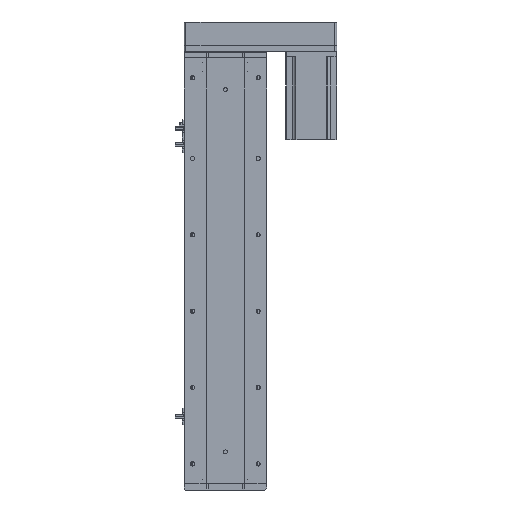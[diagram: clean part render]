
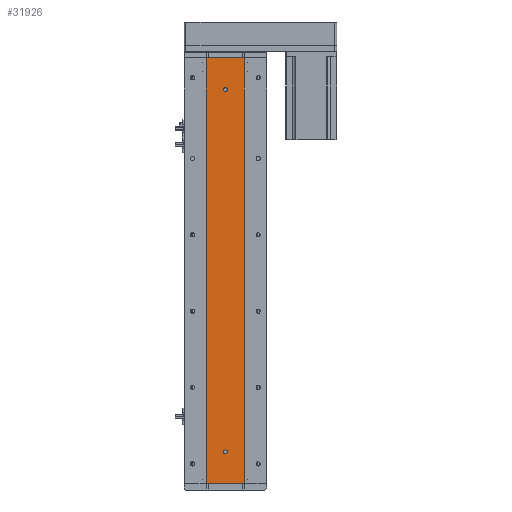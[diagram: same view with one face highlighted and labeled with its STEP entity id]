
A CAD part, left-side view. The second image highlights one B-rep face of the part: STEP entity #31926.
In plain terms, the highlighted planar face has unit normal (-1, 0, 0).
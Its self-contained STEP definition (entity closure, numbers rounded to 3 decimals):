
#119 = ORIENTED_EDGE ( 'NONE', *, *, #11274, .T. ) ;
#216 = VECTOR ( 'NONE', #38083, 1000. ) ;
#544 = CARTESIAN_POINT ( 'NONE',  ( -24.994, 29.785, 669. ) ) ;
#1213 = VERTEX_POINT ( 'NONE', #8617 ) ;
#1233 = ORIENTED_EDGE ( 'NONE', *, *, #10105, .F. ) ;
#1316 = EDGE_CURVE ( 'NONE', #16197, #15283, #22123, .T. ) ;
#1775 = AXIS2_PLACEMENT_3D ( 'NONE', #11521, #34320, #14771 ) ;
#1829 = FACE_BOUND ( 'NONE', #38116, .T. ) ;
#2536 = EDGE_CURVE ( 'NONE', #33349, #35750, #32359, .T. ) ;
#4564 = PLANE ( 'NONE',  #13389 ) ;
#5562 = CARTESIAN_POINT ( 'NONE',  ( -24.994, -29.785, 0. ) ) ;
#7866 = DIRECTION ( 'NONE',  ( 0., 0., -1. ) ) ;
#8200 = AXIS2_PLACEMENT_3D ( 'NONE', #8415, #31287, #11744 ) ;
#8415 = CARTESIAN_POINT ( 'NONE',  ( -24.994, 0., 50. ) ) ;
#8617 = CARTESIAN_POINT ( 'NONE',  ( -24.994, 29.785, 0. ) ) ;
#9008 = ORIENTED_EDGE ( 'NONE', *, *, #13947, .T. ) ;
#9304 = ORIENTED_EDGE ( 'NONE', *, *, #1316, .F. ) ;
#10105 = EDGE_CURVE ( 'NONE', #35786, #14856, #24343, .T. ) ;
#11274 = EDGE_CURVE ( 'NONE', #32246, #1213, #19646, .T. ) ;
#11521 = CARTESIAN_POINT ( 'NONE',  ( -24.994, 0., 619. ) ) ;
#11744 = DIRECTION ( 'NONE',  ( 0., 0., 1. ) ) ;
#11878 = CARTESIAN_POINT ( 'NONE',  ( -24.994, 29.785, 0. ) ) ;
#12791 = DIRECTION ( 'NONE',  ( -1., 0., 0. ) ) ;
#12896 = CIRCLE ( 'NONE', #8200, 3. ) ;
#13240 = CARTESIAN_POINT ( 'NONE',  ( -24.994, 0., 619. ) ) ;
#13389 = AXIS2_PLACEMENT_3D ( 'NONE', #17684, #40485, #20963 ) ;
#13947 = EDGE_CURVE ( 'NONE', #1213, #14856, #22331, .T. ) ;
#14771 = DIRECTION ( 'NONE',  ( 0., 0., 1. ) ) ;
#14856 = VERTEX_POINT ( 'NONE', #5562 ) ;
#15283 = VERTEX_POINT ( 'NONE', #18920 ) ;
#15428 = CARTESIAN_POINT ( 'NONE',  ( -24.994, 29.785, 669. ) ) ;
#16197 = VERTEX_POINT ( 'NONE', #30738 ) ;
#16356 = CIRCLE ( 'NONE', #1775, 3. ) ;
#16483 = DIRECTION ( 'NONE',  ( 0., 0., 1. ) ) ;
#16560 = CARTESIAN_POINT ( 'NONE',  ( -24.994, 29.785, 669. ) ) ;
#17684 = CARTESIAN_POINT ( 'NONE',  ( -24.994, 29.785, 669. ) ) ;
#17716 = CARTESIAN_POINT ( 'NONE',  ( -24.994, -29.785, 669. ) ) ;
#18401 = DIRECTION ( 'NONE',  ( 0., -1., 0. ) ) ;
#18920 = CARTESIAN_POINT ( 'NONE',  ( -24.994, 0., 53. ) ) ;
#19646 = LINE ( 'NONE', #16560, #36004 ) ;
#19810 = DIRECTION ( 'NONE',  ( 0., 0., -1. ) ) ;
#20070 = LINE ( 'NONE', #15428, #216 ) ;
#20214 = FACE_BOUND ( 'NONE', #28524, .T. ) ;
#20254 = AXIS2_PLACEMENT_3D ( 'NONE', #32322, #12791, #35575 ) ;
#20802 = EDGE_CURVE ( 'NONE', #32246, #35786, #20070, .T. ) ;
#20856 = CARTESIAN_POINT ( 'NONE',  ( -24.994, 0., 622. ) ) ;
#20963 = DIRECTION ( 'NONE',  ( 0., 0., -1. ) ) ;
#21173 = ORIENTED_EDGE ( 'NONE', *, *, #25334, .F. ) ;
#22123 = CIRCLE ( 'NONE', #20254, 3. ) ;
#22331 = LINE ( 'NONE', #11878, #38674 ) ;
#22578 = ORIENTED_EDGE ( 'NONE', *, *, #20802, .F. ) ;
#23317 = VECTOR ( 'NONE', #7866, 1000. ) ;
#24343 = LINE ( 'NONE', #17716, #23317 ) ;
#25334 = EDGE_CURVE ( 'NONE', #15283, #16197, #12896, .T. ) ;
#27783 = CARTESIAN_POINT ( 'NONE',  ( -24.994, 0., 616. ) ) ;
#28524 = EDGE_LOOP ( 'NONE', ( #34217, #37796 ) ) ;
#30189 = EDGE_LOOP ( 'NONE', ( #9008, #1233, #22578, #119 ) ) ;
#30738 = CARTESIAN_POINT ( 'NONE',  ( -24.994, 0., 47. ) ) ;
#31247 = CARTESIAN_POINT ( 'NONE',  ( -24.994, -29.785, 669. ) ) ;
#31287 = DIRECTION ( 'NONE',  ( -1., 0., 0. ) ) ;
#31926 = ADVANCED_FACE ( 'NONE', ( #20214, #1829, #35530 ), #4564, .F. ) ;
#32246 = VERTEX_POINT ( 'NONE', #544 ) ;
#32322 = CARTESIAN_POINT ( 'NONE',  ( -24.994, 0., 50. ) ) ;
#32359 = CIRCLE ( 'NONE', #39441, 3. ) ;
#33349 = VERTEX_POINT ( 'NONE', #20856 ) ;
#34217 = ORIENTED_EDGE ( 'NONE', *, *, #2536, .F. ) ;
#34320 = DIRECTION ( 'NONE',  ( -1., 0., 0. ) ) ;
#35530 = FACE_OUTER_BOUND ( 'NONE', #30189, .T. ) ;
#35575 = DIRECTION ( 'NONE',  ( 0., 0., 1. ) ) ;
#35750 = VERTEX_POINT ( 'NONE', #27783 ) ;
#35786 = VERTEX_POINT ( 'NONE', #31247 ) ;
#36004 = VECTOR ( 'NONE', #19810, 1000. ) ;
#36010 = DIRECTION ( 'NONE',  ( -1., 0., 0. ) ) ;
#36298 = EDGE_CURVE ( 'NONE', #35750, #33349, #16356, .T. ) ;
#37796 = ORIENTED_EDGE ( 'NONE', *, *, #36298, .F. ) ;
#38083 = DIRECTION ( 'NONE',  ( 0., -1., 0. ) ) ;
#38116 = EDGE_LOOP ( 'NONE', ( #21173, #9304 ) ) ;
#38674 = VECTOR ( 'NONE', #18401, 1000. ) ;
#39441 = AXIS2_PLACEMENT_3D ( 'NONE', #13240, #36010, #16483 ) ;
#40485 = DIRECTION ( 'NONE',  ( 1., 0., 0. ) ) ;
